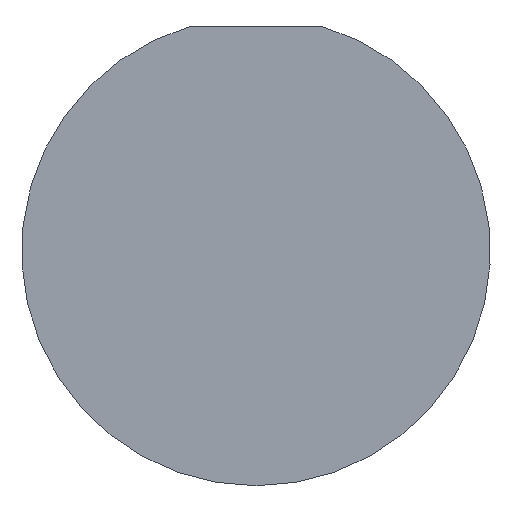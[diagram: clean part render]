
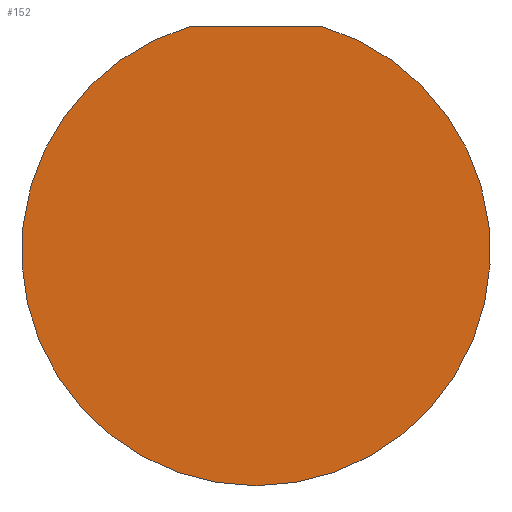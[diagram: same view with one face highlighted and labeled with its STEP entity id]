
A CAD part, front view. The second image highlights one B-rep face of the part: STEP entity #152.
In plain terms, the highlighted planar face has unit normal (0, -1, 0).
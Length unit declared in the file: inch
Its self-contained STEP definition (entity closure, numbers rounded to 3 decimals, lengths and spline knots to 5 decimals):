
#1 = CARTESIAN_POINT ( 'NONE',  ( 0., 0., 0. ) ) ;
#4 = DIRECTION ( 'NONE',  ( 0., 0., 1. ) ) ;
#15 = CARTESIAN_POINT ( 'NONE',  ( 0.035, 0., 0.12 ) ) ;
#16 = DIRECTION ( 'NONE',  ( 0., 1., 0. ) ) ;
#22 = CARTESIAN_POINT ( 'NONE',  ( -0.035, 0., 0.12 ) ) ;
#33 = CARTESIAN_POINT ( 'NONE',  ( 0., 0., -0.125 ) ) ;
#34 = PLANE ( 'NONE',  #160 ) ;
#39 = DIRECTION ( 'NONE',  ( 0., 0., 1. ) ) ;
#43 = DIRECTION ( 'NONE',  ( 0., 1., 0. ) ) ;
#61 = DIRECTION ( 'NONE',  ( 0., 0., 1. ) ) ;
#65 = CARTESIAN_POINT ( 'NONE',  ( 0., 0., 0. ) ) ;
#70 = CARTESIAN_POINT ( 'NONE',  ( 0., 0., 0. ) ) ;
#71 = DIRECTION ( 'NONE',  ( 0., 1., 0. ) ) ;
#80 = CARTESIAN_POINT ( 'NONE',  ( 0., 0., 0.12 ) ) ;
#81 = DIRECTION ( 'NONE',  ( -1., 0., 0. ) ) ;
#87 = EDGE_LOOP ( 'NONE', ( #126, #108, #119 ) ) ;
#88 = VERTEX_POINT ( 'NONE', #33 ) ;
#90 = VERTEX_POINT ( 'NONE', #15 ) ;
#95 = CIRCLE ( 'NONE', #164, 0.125 ) ;
#96 = FACE_OUTER_BOUND ( 'NONE', #87, .T. ) ;
#99 = VECTOR ( 'NONE', #81, 39.37008 ) ;
#106 = LINE ( 'NONE', #80, #99 ) ;
#108 = ORIENTED_EDGE ( 'NONE', *, *, #191, .T. ) ;
#109 = VERTEX_POINT ( 'NONE', #22 ) ;
#119 = ORIENTED_EDGE ( 'NONE', *, *, #176, .F. ) ;
#126 = ORIENTED_EDGE ( 'NONE', *, *, #188, .F. ) ;
#137 = CIRCLE ( 'NONE', #185, 0.125 ) ;
#152 = ADVANCED_FACE ( 'NONE', ( #96 ), #34, .F. ) ;
#160 = AXIS2_PLACEMENT_3D ( 'NONE', #1, #16, #4 ) ;
#164 = AXIS2_PLACEMENT_3D ( 'NONE', #65, #43, #61 ) ;
#176 = EDGE_CURVE ( 'NONE', #88, #109, #95, .T. ) ;
#185 = AXIS2_PLACEMENT_3D ( 'NONE', #70, #71, #39 ) ;
#188 = EDGE_CURVE ( 'NONE', #90, #88, #137, .T. ) ;
#191 = EDGE_CURVE ( 'NONE', #90, #109, #106, .T. ) ;
